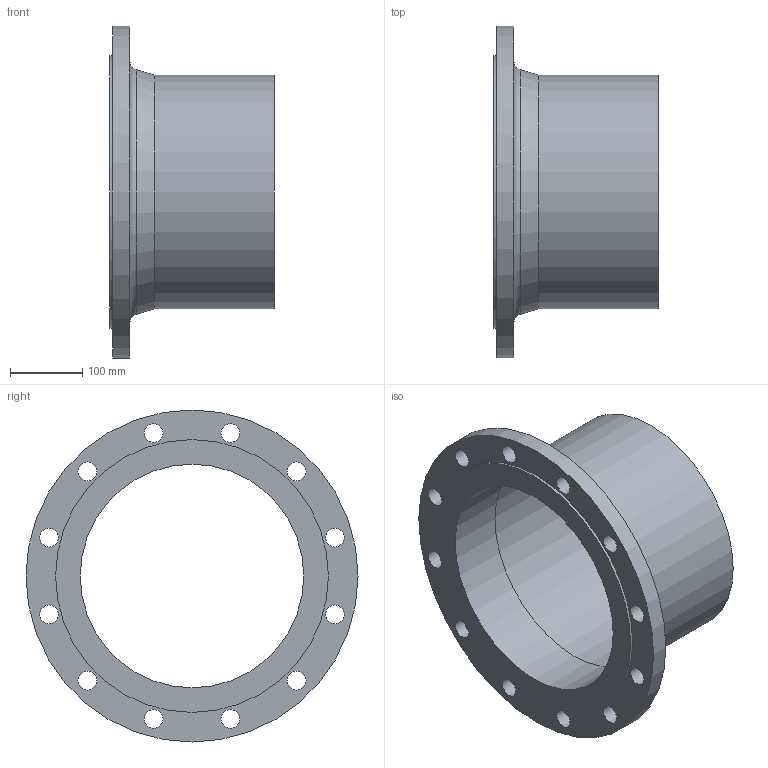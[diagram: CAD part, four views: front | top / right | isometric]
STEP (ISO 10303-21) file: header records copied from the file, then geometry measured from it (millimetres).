
FILE_DESCRIPTION(/* description */ (''),/* implementation_level */ '2;1');
FILE_NAME(/* name */ 'C:\Users\LK_9K\Desktop\STRAUB FLANSCHADAPTER DN300.stp',/* time_stamp */ '2021-04-12T09:33:43+02:00',/* author */ ('LK_9K'),/* organization */ (''),/* preprocessor_version */ 'ST-DEVELOPER v18.1',/* originating_system */ 'Autodesk Inventor 2020',/* authorisation */ '');
FILE_SCHEMA (('AUTOMOTIVE_DESIGN { 1 0 10303 214 3 1 1 }'));
Length unit declared in the file: millimetre
Products named in the file (1): Bauteil1
Bounding box: 228 x 460 x 460 mm (x, y, z)
Volume: 3325588.8 mm3; surface area: 649558.8 mm2
Topology: 1 solids, 1 shells, 24 faces, 78 edges, 59 vertices
Faces by surface type: cylinder 17, plane 5, torus 1, cone 1
Full cylindrical faces by diameter (mm): 26 x12, 309.7 x1, 315.9 x1, 323.9 x1, 378 x1, 460 x1
Entity records: 1023 total; most frequent: DIRECTION 188, CARTESIAN_POINT 162, ORIENTED_EDGE 156, AXIS2_PLACEMENT_3D 85, EDGE_CURVE 78, CIRCLE 60, VERTEX_POINT 59, EDGE_LOOP 53
